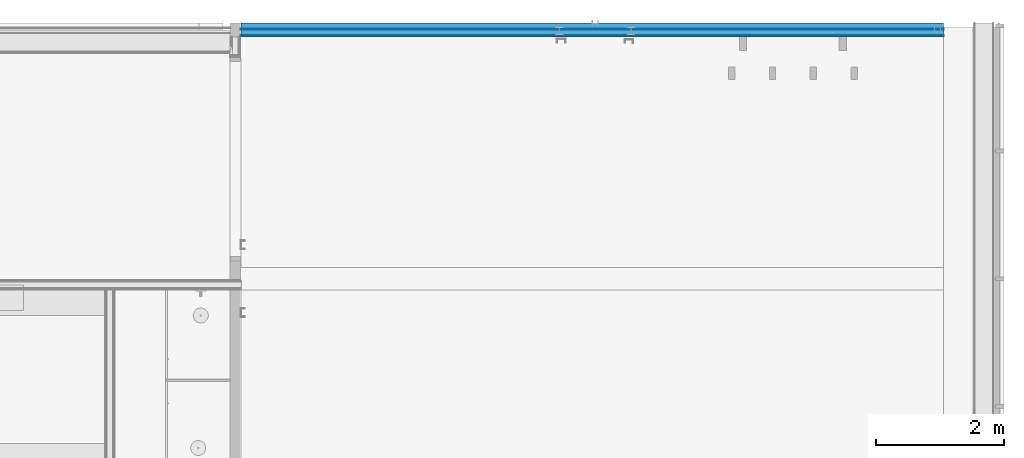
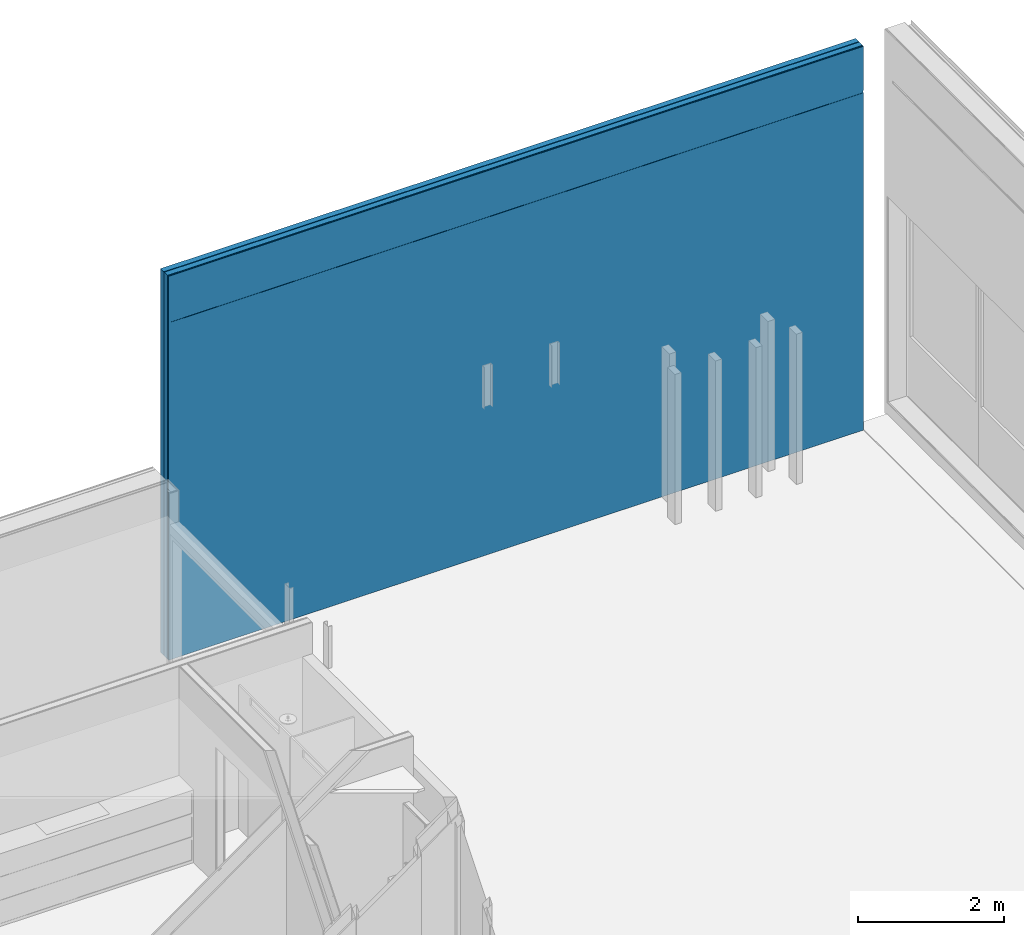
# One storey, part 15 of 35: 5 building element parts, 1 element without a shape of its own.
"""IFC2X3 building model written with IfcOpenShell, lengths in millimetres."""

from ifc_helpers import new_model, entity, si_unit, converted_unit, derived_unit, money_unit, direction, frame, origin_with_axes, place, context, subcontext, project, spatial, faceted_brep, material, type_object, element, aggregate, save


model = new_model("IFC2X3")

# Units and contexts
model_context = context("Model", 3, precision=0.01, world=origin_with_axes(), true_north=direction((0.0, 1.0)))
body_context = subcontext(model_context, "Body", "Model", "MODEL_VIEW")
ifc_project = project(units=[si_unit("LENGTHUNIT", "METRE", prefix="MILLI"), si_unit("AREAUNIT", "SQUARE_METRE"), si_unit("VOLUMEUNIT", "CUBIC_METRE"), converted_unit("PLANEANGLEUNIT", "DEGREE", entity("IfcPlaneAngleMeasure", 0.0174532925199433), si_unit("PLANEANGLEUNIT", "RADIAN"), dimensions=[0, 0, 0, 0, 0, 0, 0]), money_unit("EUR"), converted_unit("TIMEUNIT", "Year", entity("IfcTimeMeasure", 31557600.0), si_unit("TIMEUNIT", "SECOND"), dimensions=[0, 0, 1, 0, 0, 0, 0]), si_unit("MASSUNIT", "GRAM", prefix="KILO"), si_unit("THERMODYNAMICTEMPERATUREUNIT", "DEGREE_CELSIUS"), si_unit("LUMINOUSINTENSITYUNIT", "LUMEN"), si_unit("ENERGYUNIT", "JOULE", prefix="MEGA"), derived_unit("THERMALCONDUCTANCEUNIT", [(si_unit("POWERUNIT", "WATT"), 1), (si_unit("LENGTHUNIT", "METRE"), -1), (si_unit("THERMODYNAMICTEMPERATUREUNIT", "KELVIN"), -1)]), derived_unit("SPECIFICHEATCAPACITYUNIT", [(si_unit("ENERGYUNIT", "JOULE"), 1), (si_unit("MASSUNIT", "GRAM", prefix="KILO"), -1), (si_unit("THERMODYNAMICTEMPERATUREUNIT", "KELVIN"), -1)]), derived_unit("MASSDENSITYUNIT", [(si_unit("MASSUNIT", "GRAM", prefix="KILO"), 1), (si_unit("VOLUMEUNIT", "CUBIC_METRE"), -1)])], contexts=[model_context])

# Site, building, storey
site_placement = place(None, origin_with_axes())
site = spatial("IfcSite", under=ifc_project, at=site_placement, Name="<site naam>", CompositionType="ELEMENT")
building_placement = place(site_placement, origin_with_axes())
building = spatial("IfcBuilding", under=site, at=building_placement, Name="<Naam gebouw>", CompositionType="ELEMENT")
storey_placement = place(building_placement, frame((0.0, 0.0, 6345.0), z_axis=(0.0, 0.0, 1.0), x_axis=(1.0, 0.0, 0.0)))
storey = spatial("IfcBuildingStorey", under=building, at=storey_placement, Name="02 2e tussenverdieping", CompositionType="ELEMENT", Elevation=6345.0)

# Wall, building element parts
wall_type = type_object("IfcWallType", Name="therm. voorzetwand 215mm 215", PredefinedType="NOTDEFINED")
wall_placement = place(storey_placement, frame((58325.00000000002, 19999.99999240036, 0.0), z_axis=(0.0, 0.0, 1.0), x_axis=(1.0, -5.486340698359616e-09, 0.0)))
wall = element("IfcWall", 1, at=wall_placement, inside=storey, type_object=wall_type, Name="22_Binnenwand_therm.")
ifc_material_1 = material(Name="isolatie_steenwol")
building_element_part_1_placement = place(wall_placement, origin_with_axes())
building_element_part_1 = element("IfcBuildingElementPart", 2, at=building_element_part_1_placement, material=ifc_material_1, Name="isolatie_steenwol", context=body_context, shape_type="Brep", body=[
    faceted_brep([(5496.999999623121, 3.015841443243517e-05, 5574.999999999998), (5496.999999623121, 3.015841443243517e-05, 0.0), (0.0, 0.0, 0.0), (0.0, 0.0, 6425.0), (11000.000114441, 6.03497483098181e-05, 6425.0), (11000.000114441, 6.03497483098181e-05, 0.0), (5593.000000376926, 3.068510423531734e-05, 0.0), (5593.000000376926, 3.068510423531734e-05, 5574.999999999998), (5496.999999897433, -49.9999623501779, 5574.999999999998), (5496.999999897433, -49.9999623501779, 0.0), (5593.000000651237, -49.99996182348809, 0.0), (11000.00011493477, -89.99993965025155, 0.0), (6108.250000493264, -89.99996648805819, 0.0), (6108.250000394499, -71.99726834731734, 0.0), (6165.000000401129, -71.99726803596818, 0.0), (6165.000000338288, -60.99726792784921, 0.0), (6045.000000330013, -60.99726858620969, 0.0), (6045.000000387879, -71.99726869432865, 0.0), (6101.750000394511, -71.99726838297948, 0.0), (6101.750000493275, -89.99996652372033, 0.0), (4988.250000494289, -89.99997263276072, 0.0), (4988.250000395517, -71.99727449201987, 0.0), (5045.000000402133, -71.9972741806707, 0.0), (5045.000000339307, -60.99727407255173, 0.0), (4925.000000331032, -60.99727473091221, 0.0), (4925.000000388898, -71.99727483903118, 0.0), (4981.750000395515, -71.99727452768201, 0.0), (4981.750000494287, -89.99997266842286, 0.0), (4.937703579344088e-07, -89.99999999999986, 0.0), (5505.000002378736, -49.99996236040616, 0.0), (5505.000002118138, -2.499962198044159, 0.0), (5584.999997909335, -2.499961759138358, 0.0), (5584.999998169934, -49.9999619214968, 0.0), (4.937703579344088e-07, -89.99999999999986, 6425.0), (11000.00011493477, -89.99993965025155, 6425.0), (5593.000000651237, -49.99996182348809, 5574.999999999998), (5584.999998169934, -49.9999619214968, 5574.999999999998), (5584.999997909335, -2.499961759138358, 5574.999999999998), (5505.000002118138, -2.499962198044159, 5574.999999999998), (5505.000002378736, -49.99996236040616, 5574.999999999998), (6108.250000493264, -89.99996648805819, 5545.000000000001), (4981.750000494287, -89.99997266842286, 5545.000000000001), (4988.250000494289, -89.99997263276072, 5545.000000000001), (6101.750000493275, -89.99996652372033, 5545.000000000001), (6108.250000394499, -71.99726834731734, 5545.000000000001), (6165.000000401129, -71.99726803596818, 5545.000000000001), (6165.000000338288, -60.99726792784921, 5545.000000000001), (6045.000000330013, -60.99726858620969, 5545.000000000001), (6045.000000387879, -71.99726869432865, 5545.000000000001), (6101.750000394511, -71.99726838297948, 5545.000000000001), (4988.250000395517, -71.99727449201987, 5545.000000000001), (5045.000000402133, -71.9972741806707, 5545.000000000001), (5045.000000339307, -60.99727407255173, 5545.000000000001), (4925.000000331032, -60.99727473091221, 5545.000000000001), (4925.000000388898, -71.99727483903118, 5545.000000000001), (4981.750000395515, -71.99727452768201, 5545.000000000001)], [[[0, 1, 2, 3, 4, 5, 6, 7]], [[1, 0, 8, 9]], [[10, 6, 5, 11, 12, 13, 14, 15, 16, 17, 18, 19, 20, 21, 22, 23, 24, 25, 26, 27, 28, 2, 1, 9, 29, 30, 31, 32]], [[28, 33, 3, 2]], [[33, 34, 4, 3]], [[4, 34, 11, 5]], [[7, 6, 10, 35]], [[0, 7, 35, 36, 37, 38, 39, 8]], [[29, 9, 8, 39]], [[40, 12, 11, 34, 33, 28, 27, 41, 42, 20, 19, 43]], [[13, 12, 40, 44]], [[14, 13, 44, 45]], [[15, 14, 45, 46]], [[16, 15, 46, 47]], [[17, 16, 47, 48]], [[18, 17, 48, 49]], [[19, 18, 49, 43]], [[21, 20, 42, 50]], [[22, 21, 50, 51]], [[23, 22, 51, 52]], [[24, 23, 52, 53]], [[25, 24, 53, 54]], [[26, 25, 54, 55]], [[27, 26, 55, 41]], [[30, 29, 39, 38]], [[31, 30, 38, 37]], [[32, 31, 37, 36]], [[10, 32, 36, 35]], [[42, 41, 55, 54, 53, 52, 51, 50]], [[40, 43, 49, 48, 47, 46, 45, 44]]]),
])
ifc_material_2 = material(Name="metal_stud")
building_element_part_2_placement = place(wall_placement, origin_with_axes())
building_element_part_2 = element("IfcBuildingElementPart", 3, at=building_element_part_2_placement, material=ifc_material_2, Name="metal_stud", context=body_context, shape_type="Brep", body=[
    faceted_brep([(6101.750000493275, -89.99996652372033, 5545.000000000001), (6101.750000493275, -89.99996652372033, 0.0), (4988.250000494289, -89.99997263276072, 0.0), (4988.250000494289, -89.99997263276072, 5545.000000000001), (4981.750000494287, -89.99997266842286, 5545.000000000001), (4981.750000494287, -89.99997266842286, 0.0), (4.937703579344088e-07, -89.99999999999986, 0.0), (4.937703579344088e-07, -89.99999999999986, 6425.0), (11000.00011493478, -89.99993965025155, 6425.0), (11000.00011493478, -89.99993965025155, 0.0), (6108.250000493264, -89.99996648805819, 0.0), (6108.250000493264, -89.99996648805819, 5545.000000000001), (6101.750000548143, -99.9999665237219, 5545.000000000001), (6101.750000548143, -99.99996652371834, 0.0), (4988.250000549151, -99.99997263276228, 0.0), (4988.250000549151, -99.99997263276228, 5545.000000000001), (4981.750000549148, -99.99997266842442, 5545.000000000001), (4981.750000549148, -99.99997266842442, 0.0), (5.486313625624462e-07, -100.0000000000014, 0.0), (5.486313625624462e-07, -99.99999999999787, 6425.0), (11000.00011498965, -99.99993965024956, 6425.0), (11000.00011498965, -99.99993965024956, 0.0), (6108.250000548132, -99.9999664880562, 0.0), (6108.250000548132, -99.99996648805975, 5545.000000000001)], [[[0, 1, 2, 3, 4, 5, 6, 7, 8, 9, 10, 11]], [[1, 0, 12, 13]], [[1, 13, 14, 2]], [[3, 2, 14, 15]], [[4, 3, 15, 16]], [[5, 4, 16, 17]], [[5, 17, 18, 6]], [[6, 18, 19, 7]], [[7, 19, 20, 8]], [[9, 8, 20, 21]], [[22, 10, 9, 21]], [[11, 10, 22, 23]], [[0, 11, 23, 12]], [[23, 22, 21, 20, 19, 18, 17, 16, 15, 14, 13, 12]]]),
])
building_element_part_3_placement = place(wall_placement, origin_with_axes())
building_element_part_3 = element("IfcBuildingElementPart", 4, at=building_element_part_3_placement, material=ifc_material_1, Name="isolatie_steenwol", context=body_context, shape_type="Brep", body=[
    faceted_brep([(6101.750000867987, -162.0003247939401, 3495.998526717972), (6101.75000054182, -100.0000003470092, 3495.998526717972), (4988.250000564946, -100.0000064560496, 3495.998526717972), (4988.250000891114, -162.0003309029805, 3495.998526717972), (6101.75000054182, -100.0000003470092, 3337.998512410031), (6101.750000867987, -162.0003247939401, 3337.998512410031), (4988.250000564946, -100.0000064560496, 3337.998512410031), (4988.250000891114, -162.0003309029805, 3337.998512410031)], [[[0, 1, 2, 3]], [[4, 1, 0, 5]], [[1, 4, 6, 2]], [[3, 2, 6, 7]], [[5, 0, 3, 7]], [[4, 5, 7, 6]]]),
    faceted_brep([(6045.000000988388, -181.0003252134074, 0.0), (6165.000000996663, -181.0003245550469, 0.0), (6165.000000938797, -170.0003244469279, 0.0), (6108.250000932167, -170.0003247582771, 0.0), (6108.250000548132, -99.9999664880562, 0.0), (11000.00011498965, -99.99993965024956, 0.0), (11000.00011548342, -189.9999396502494, 0.0), (1.042401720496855e-06, -190.0000000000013, 0.0), (5.486313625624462e-07, -100.0000000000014, 0.0), (4981.750000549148, -99.99997266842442, 0.0), (4981.750000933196, -170.0003309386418, 0.0), (4925.00000092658, -170.0003312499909, 0.0), (4925.000000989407, -181.0003313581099, 0.0), (5045.000000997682, -181.0003306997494, 0.0), (5045.000000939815, -170.0003305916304, 0.0), (4988.250000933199, -170.0003309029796, 0.0), (4988.250000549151, -99.99997263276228, 0.0), (6101.750000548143, -99.99996652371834, 0.0), (6101.750000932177, -170.0003247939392, 0.0), (6045.000000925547, -170.0003251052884, 0.0), (6045.000000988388, -181.0003252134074, 5545.000000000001), (6165.000000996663, -181.0003245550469, 5545.000000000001), (6165.000000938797, -170.0003244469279, 5545.000000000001), (6108.250000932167, -170.0003247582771, 5545.000000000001), (6108.250000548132, -99.9999664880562, 5545.000000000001), (6101.750000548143, -99.99996652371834, 5545.000000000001), (6101.75000054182, -99.99991923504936, 3506.998526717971), (4988.250000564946, -99.99992534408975, 3506.998526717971), (4988.250000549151, -99.99997263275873, 5545.000000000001), (4981.750000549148, -99.99997266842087, 5545.000000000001), (5.486313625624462e-07, -99.99999999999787, 6425.0), (11000.00011498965, -99.99993965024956, 6425.0), (11000.00011548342, -189.9999396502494, 6425.0), (1.042401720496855e-06, -190.0000000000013, 6425.0), (4981.750000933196, -170.0003309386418, 5545.000000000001), (4925.00000092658, -170.0003312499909, 5545.000000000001), (4925.000000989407, -181.0003313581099, 5545.000000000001), (5045.000000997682, -181.0003306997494, 5545.000000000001), (5045.000000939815, -170.0003305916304, 3506.998526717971), (5045.000000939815, -170.0003305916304, 3326.998512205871), (5045.000000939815, -170.0003305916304, 5545.000000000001), (4988.250000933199, -170.0003309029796, 3326.998512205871), (4988.250000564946, -99.99992534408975, 3326.998512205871), (6101.75000054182, -99.99991923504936, 3326.998512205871), (6101.750000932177, -170.0003247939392, 3326.998512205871), (6045.000000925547, -170.0003251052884, 3326.998512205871), (6045.000000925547, -170.0003251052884, 3506.998526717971), (6045.000000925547, -170.0003251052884, 5545.000000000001), (6101.750000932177, -170.0003247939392, 5545.000000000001), (6101.750000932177, -170.0003247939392, 3506.998526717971), (4988.250000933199, -170.0003309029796, 3506.998526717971), (4988.250000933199, -170.0003309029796, 5545.000000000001)], [[[0, 1, 2, 3, 4, 5, 6, 7, 8, 9, 10, 11, 12, 13, 14, 15, 16, 17, 18, 19]], [[1, 0, 20, 21]], [[2, 1, 21, 22]], [[3, 2, 22, 23]], [[24, 4, 3, 23]], [[25, 26, 27, 28, 29, 9, 8, 30, 31, 5, 4, 24]], [[5, 31, 32, 6]], [[33, 7, 6, 32]], [[8, 7, 33, 30]], [[9, 29, 34, 10]], [[11, 10, 34, 35]], [[12, 11, 35, 36]], [[13, 12, 36, 37]], [[38, 39, 14, 13, 37, 40]], [[39, 41, 15, 14]], [[41, 42, 16, 15]], [[43, 17, 16, 42]], [[17, 43, 44, 18]], [[44, 45, 19, 18]], [[45, 46, 47, 20, 0, 19]], [[25, 24, 23, 22, 21, 20, 47, 48]], [[26, 25, 48, 49]], [[49, 46, 38, 50, 27, 26]], [[28, 27, 50, 51]], [[29, 28, 51, 40, 37, 36, 35, 34]], [[30, 33, 32, 31]], [[46, 45, 39, 38]], [[50, 38, 40, 51]], [[44, 43, 42, 41, 39, 45]], [[46, 49, 48, 47]]]),
])
ifc_material_3 = material(Name="gipsplaat")
building_element_part_4_placement = place(wall_placement, origin_with_axes())
building_element_part_4 = element("IfcBuildingElementPart", 5, at=building_element_part_4_placement, material=ifc_material_3, Name="gipsplaat", context=body_context, shape_type="Brep", body=[
    faceted_brep([(11000.00011555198, -202.4999396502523, 6425.0), (11000.00011548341, -189.9999396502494, 6425.0), (1.042401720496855e-06, -190.0000000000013, 6425.0), (1.11098330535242e-06, -202.5000000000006, 6425.0), (11000.00011555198, -202.4999396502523, 0.0), (11000.00011548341, -189.9999396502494, 0.0), (1.042401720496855e-06, -190.0000000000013, 0.0), (1.11098330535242e-06, -202.5000000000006, 0.0)], [[[0, 1, 2, 3]], [[0, 4, 5, 1]], [[1, 5, 6, 2]], [[3, 2, 6, 7]], [[4, 0, 3, 7]], [[5, 4, 7, 6]]]),
])
building_element_part_5_placement = place(wall_placement, origin_with_axes())
building_element_part_5 = element("IfcBuildingElementPart", 6, at=building_element_part_5_placement, material=ifc_material_3, Name="gipsplaat", context=body_context, shape_type="Brep", body=[
    faceted_brep([(11000.00011559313, -209.9999414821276, 5645.029654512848), (11000.00011562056, -214.9999396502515, 5645.029654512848), (11000.00011562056, -214.9999396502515, 0.0), (11000.00011555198, -202.4999396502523, 0.0), (11000.00011555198, -202.4999396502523, 6425.0), (11000.00011562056, -214.9999396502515, 6425.0), (11000.00011562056, -214.9999396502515, 5685.029654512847), (11000.00011559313, -209.9999414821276, 5685.029654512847), (42.43408751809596, -210.0000015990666, 5645.029654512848), (42.43408754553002, -214.9999997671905, 5645.029654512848), (42.43408754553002, -214.9999997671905, 5685.029654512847), (1.179564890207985e-06, -214.9999999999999, 6425.0), (1.179564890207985e-06, -214.9999999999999, 0.0), (1.11098330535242e-06, -202.5000000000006, 0.0), (1.11098330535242e-06, -202.5000000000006, 6425.0), (42.43408751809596, -210.0000015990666, 5685.029654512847)], [[[0, 1, 2, 3, 4, 5, 6, 7]], [[1, 0, 8, 9]], [[10, 6, 5, 11, 12, 2, 1, 9]], [[13, 3, 2, 12]], [[14, 4, 3, 13]], [[11, 5, 4, 14]], [[7, 6, 10, 15]], [[0, 7, 15, 8]], [[10, 9, 8, 15]], [[12, 11, 14, 13]]]),
])
aggregate(wall, [building_element_part_1, building_element_part_2, building_element_part_3, building_element_part_4, building_element_part_5])

save(model, "model.ifc")
